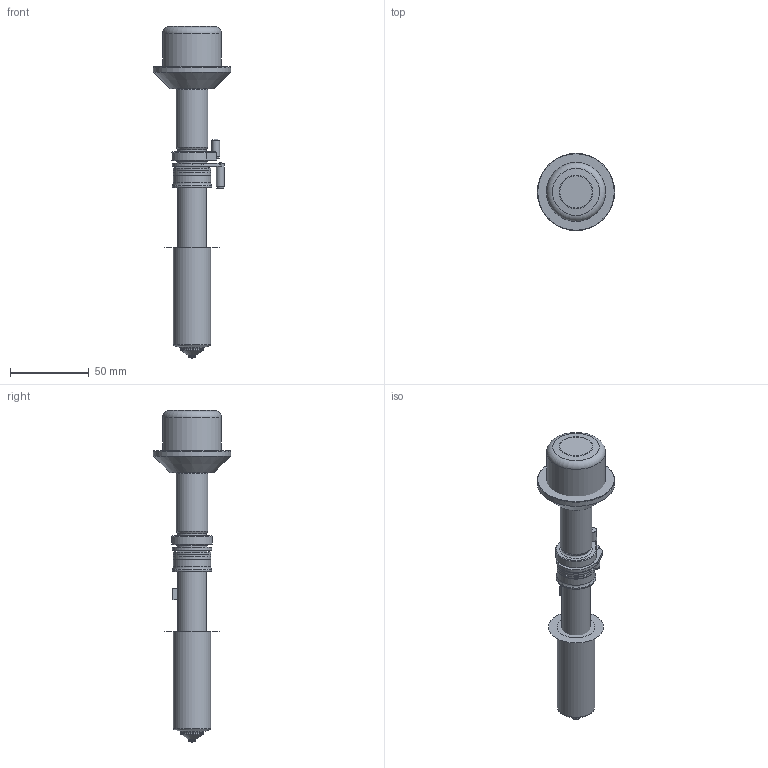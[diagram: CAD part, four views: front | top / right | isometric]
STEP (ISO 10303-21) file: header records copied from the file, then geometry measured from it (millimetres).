
FILE_DESCRIPTION(/* description */ (''),/* implementation_level */ '2;1');
FILE_NAME(/* name */ 'U500 VX.stp',/* time_stamp */ '2021-12-24T15:57:57+08:00',/* author */ (''),/* organization */ (''),/* preprocessor_version */ 'ST-DEVELOPER v16',/* originating_system */ 'SIEMENS PLM Software NX 11.0',/* authorisation */ '');
FILE_SCHEMA (('AUTOMOTIVE_DESIGN { 1 0 10303 214 3 1 1 1 }'));
Length unit declared in the file: millimetre
Products named in the file (23): 3D_EXPORT_3D_ASSY_11313291_0_id117_x_t; 3D_EXPORT_3D_ASSY_11313291_0_id112_x_t; 3D_EXPORT_3D_ASSY_11313291_0_id107_x_t; 3D_EXPORT_3D_ASSY_11313291_0_id102_x_t; 3D_EXPORT_3D_ASSY_11313291_0_id97_x_t; 3D_EXPORT_3D_ASSY_11313291_0_id90_x_t; 3D_EXPORT_3D_ASSY_11313291_0_id85_x_t; 3D_EXPORT_3D_ASSY_11313291_0_id80_x_t; 3D_EXPORT_3D_ASSY_11313291_0_id75_x_t; 3D_EXPORT_3D_ASSY_11313291_0_id70_x_t; 3D_EXPORT_3D_ASSY_11313291_0_id65_x_t; 3D_EXPORT_3D_ASSY_11313291_0_id60_x_t; 3D_EXPORT_3D_ASSY_11313291_0_id55_x_t; 3D_EXPORT_3D_ASSY_11313291_0_id50_x_t; 3D_EXPORT_3D_ASSY_11313291_0_id45_x_t; 3D_EXPORT_3D_ASSY_11313291_0_id40_x_t; 3D_EXPORT_3D_ASSY_11313291_0_id31_x_t; 3D_EXPORT_3D_ASSY_11313291_0_id26_x_t; 3D_EXPORT_3D_ASSY_11313291_0_id21_x_t; 3D_EXPORT_3D_ASSY_11313291_0_id16_x_t; 3D_EXPORT_3D_ASSY_11313291_0_id11_x_t; 3D_EXPORT_3D_ASSY_11313291_0_id6_x_t; 3D_EXPORT_3D_ASSY_11313291_0_x_t
Assembly tree (25 placements, depth 2):
  3D_EXPORT_3D_ASSY_11313291_0_x_t
    3D_EXPORT_3D_ASSY_11313291_0_id6_x_t
    3D_EXPORT_3D_ASSY_11313291_0_id11_x_t
    3D_EXPORT_3D_ASSY_11313291_0_id16_x_t
    3D_EXPORT_3D_ASSY_11313291_0_id21_x_t
    3D_EXPORT_3D_ASSY_11313291_0_id26_x_t
    3D_EXPORT_3D_ASSY_11313291_0_id31_x_t  x3
    3D_EXPORT_3D_ASSY_11313291_0_id40_x_t
    3D_EXPORT_3D_ASSY_11313291_0_id45_x_t
    3D_EXPORT_3D_ASSY_11313291_0_id50_x_t
    3D_EXPORT_3D_ASSY_11313291_0_id55_x_t
    3D_EXPORT_3D_ASSY_11313291_0_id60_x_t
    3D_EXPORT_3D_ASSY_11313291_0_id65_x_t
    3D_EXPORT_3D_ASSY_11313291_0_id70_x_t
    3D_EXPORT_3D_ASSY_11313291_0_id75_x_t
    3D_EXPORT_3D_ASSY_11313291_0_id80_x_t
    3D_EXPORT_3D_ASSY_11313291_0_id85_x_t
    3D_EXPORT_3D_ASSY_11313291_0_id90_x_t  x2
    3D_EXPORT_3D_ASSY_11313291_0_id97_x_t
    3D_EXPORT_3D_ASSY_11313291_0_id102_x_t
    3D_EXPORT_3D_ASSY_11313291_0_id107_x_t
    3D_EXPORT_3D_ASSY_11313291_0_id112_x_t
    3D_EXPORT_3D_ASSY_11313291_0_id117_x_t
Bounding box: 49 x 49 x 210.55 mm (x, y, z)
Volume: 136856.7 mm3; surface area: 48692 mm2
Topology: 25 solids, 25 shells, 336 faces, 697 edges, 431 vertices
Faces by surface type: plane 146, cylinder 107, cone 42, torus 37, sphere 3, bspline 1
Full cylindrical faces by diameter (mm): 1 x2, 1.2 x1, 1.7 x2, 2.95 x1, 2.985 x1, 4.027 x1, 4.6 x1, 4.9 x1, 4.905 x1, 5 x2, 6.895 x1, 7.4 x2, 7.5 x1, 8.944 x1, 9 x1, 11.5 x1, 11.86 x1, 12.3 x1, 12.494 x1, 12.5 x1, 12.66 x1, 12.7 x1, 12.715 x2, 12.735 x1, 12.76 x1, 13.005 x1, 13.23 x1, 13.725 x2, 14 x1, 16.307 x1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
Entity records: 10590 total; most frequent: CARTESIAN_POINT 1501, DIRECTION 1424, ORIENTED_EDGE 1040, AXIS2_PLACEMENT_3D 600, EDGE_CURVE 520, EDGE_LOOP 470, VERTEX_POINT 386, PRESENTATION_STYLE_ASSIGNMENT 333
